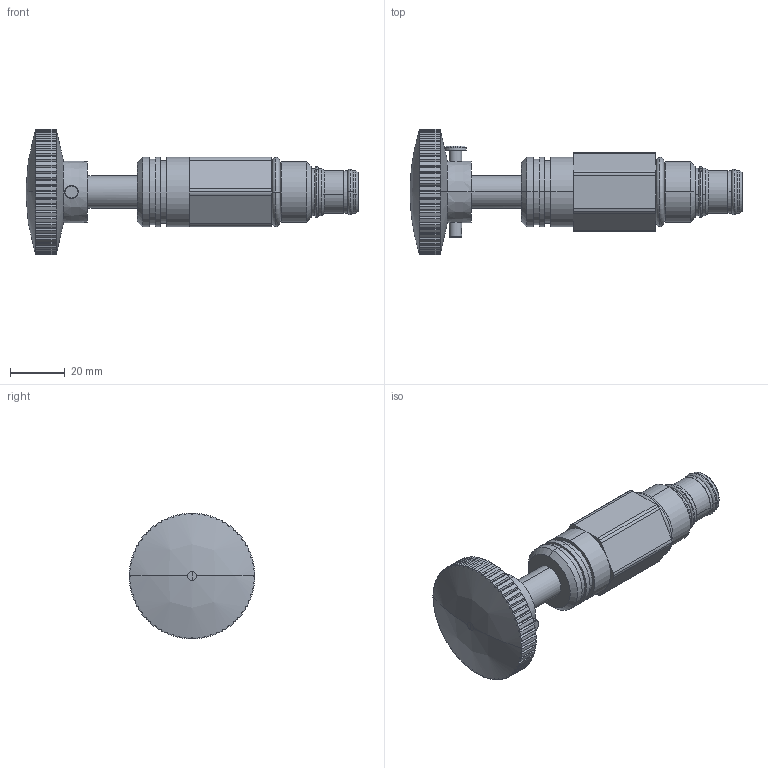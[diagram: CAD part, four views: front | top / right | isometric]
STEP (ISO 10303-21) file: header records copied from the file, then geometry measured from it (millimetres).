
FILE_DESCRIPTION((''),'2;1');
FILE_NAME('U:\Solid model CD\Solid model full\Mechanical\STEP\DEHPC0K-3D Full.stp','2008-07-28T16:06:32',('Dan'),(''),'Autodesk Inventor 9','Autodesk Inventor 9','');
FILE_SCHEMA(('AUTOMOTIVE_DESIGN { 1 0 10303 214 1 1 1 1 }'));
Length unit declared in the file: inch
Products named in the file (8): DEHPC0K-3D Full; DEHPC0K-3D Full1; DEHPC0K-3D Full2; DEHPC0K-3D Full3; DEHPC0K-3D Full4; DEHPC0K-3D Full5; DEHPC0K-3D Full6; DEHPC0K-3D Full7
Assembly tree (7 placements, depth 2):
  DEHPC0K-3D Full
    DEHPC0K-3D Full1
    DEHPC0K-3D Full2
    DEHPC0K-3D Full3
    DEHPC0K-3D Full4
    DEHPC0K-3D Full5
    DEHPC0K-3D Full6
    DEHPC0K-3D Full7
Bounding box: 121.47 x 45.96 x 45.96 mm (x, y, z)
Volume: 58264.9 mm3; surface area: 16767.4 mm2
Topology: 7 solids, 7 shells, 339 faces, 911 edges, 586 vertices
Faces by surface type: plane 153, cylinder 134, cone 30, torus 18, bspline 4
Entity records: 11678 total; most frequent: CARTESIAN_POINT 2551, DIRECTION 2105, ORIENTED_EDGE 1818, EDGE_CURVE 909, AXIS2_PLACEMENT_3D 894, VERTEX_POINT 586, CIRCLE 544, EDGE_LOOP 357
